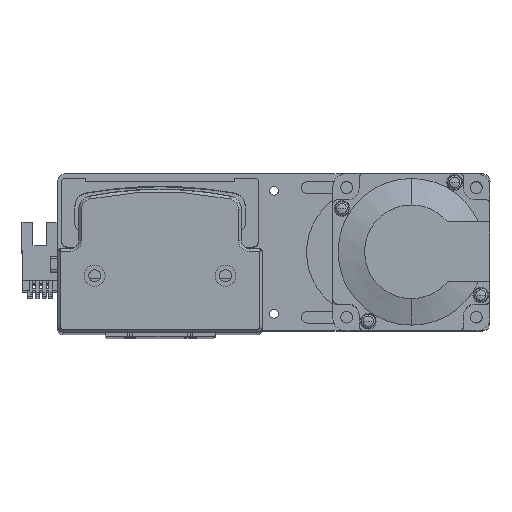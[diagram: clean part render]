
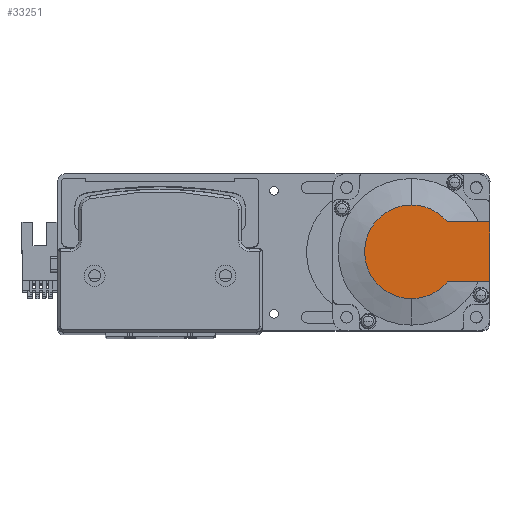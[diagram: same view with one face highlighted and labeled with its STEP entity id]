
A CAD part, top view. The second image highlights one B-rep face of the part: STEP entity #33251.
In plain terms, the highlighted planar face has unit normal (0, 0, 1) as drawn and (-1, 0, 0) by its records, which use the part's own axes.
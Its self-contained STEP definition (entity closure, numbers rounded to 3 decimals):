
#650 = DIRECTION ( 'NONE',  ( -1., 0., 0. ) ) ;
#1748 = CIRCLE ( 'NONE', #34875, 17.881 ) ;
#1859 = CARTESIAN_POINT ( 'NONE',  ( -118.5, 30., -11.45 ) ) ;
#2598 = CARTESIAN_POINT ( 'NONE',  ( -118.5, 0., 0. ) ) ;
#4062 = ORIENTED_EDGE ( 'NONE', *, *, #27092, .F. ) ;
#4374 = CARTESIAN_POINT ( 'NONE',  ( -118.5, 30., 25. ) ) ;
#4420 = VERTEX_POINT ( 'NONE', #45861 ) ;
#5519 = DIRECTION ( 'NONE',  ( -1., 0., 0. ) ) ;
#6344 = DIRECTION ( 'NONE',  ( 0., 0., -1. ) ) ;
#6529 = EDGE_CURVE ( 'NONE', #47822, #6682, #27954, .T. ) ;
#6682 = VERTEX_POINT ( 'NONE', #10396 ) ;
#9032 = PLANE ( 'NONE',  #27415 ) ;
#9594 = EDGE_LOOP ( 'NONE', ( #29234, #19136, #23899, #24264, #12250, #4062 ) ) ;
#10396 = CARTESIAN_POINT ( 'NONE',  ( -118.5, 13.735, -11.45 ) ) ;
#12250 = ORIENTED_EDGE ( 'NONE', *, *, #27284, .F. ) ;
#14131 = LINE ( 'NONE', #31557, #32849 ) ;
#15031 = CIRCLE ( 'NONE', #40846, 17.881 ) ;
#16313 = CARTESIAN_POINT ( 'NONE',  ( -118.5, 0., 17.881 ) ) ;
#16410 = EDGE_CURVE ( 'NONE', #45515, #21405, #15031, .T. ) ;
#19136 = ORIENTED_EDGE ( 'NONE', *, *, #46709, .T. ) ;
#19426 = VECTOR ( 'NONE', #41604, 1000. ) ;
#19740 = CARTESIAN_POINT ( 'NONE',  ( -118.5, 0., 0. ) ) ;
#21405 = VERTEX_POINT ( 'NONE', #28257 ) ;
#21780 = LINE ( 'NONE', #4374, #19426 ) ;
#23017 = CARTESIAN_POINT ( 'NONE',  ( -118.5, 0., 0. ) ) ;
#23502 = DIRECTION ( 'NONE',  ( 0., 0., -1. ) ) ;
#23899 = ORIENTED_EDGE ( 'NONE', *, *, #39291, .T. ) ;
#24264 = ORIENTED_EDGE ( 'NONE', *, *, #16410, .T. ) ;
#24345 = CARTESIAN_POINT ( 'NONE',  ( -118.5, -8.941, -11.45 ) ) ;
#26176 = AXIS2_PLACEMENT_3D ( 'NONE', #19740, #45949, #23502 ) ;
#26586 = CIRCLE ( 'NONE', #26176, 17.881 ) ;
#26770 = DIRECTION ( 'NONE',  ( 0., 0., -1. ) ) ;
#27092 = EDGE_CURVE ( 'NONE', #47822, #37708, #21780, .T. ) ;
#27284 = EDGE_CURVE ( 'NONE', #37708, #21405, #14131, .T. ) ;
#27415 = AXIS2_PLACEMENT_3D ( 'NONE', #27848, #5519, #31590 ) ;
#27548 = CARTESIAN_POINT ( 'NONE',  ( -118.5, 30., 11.45 ) ) ;
#27848 = CARTESIAN_POINT ( 'NONE',  ( -118.5, -8.941, 0. ) ) ;
#27954 = LINE ( 'NONE', #24345, #45572 ) ;
#27967 = DIRECTION ( 'NONE',  ( 0., -1., 0. ) ) ;
#28257 = CARTESIAN_POINT ( 'NONE',  ( -118.5, 13.735, 11.45 ) ) ;
#28671 = DIRECTION ( 'NONE',  ( -1., 0., 0. ) ) ;
#29234 = ORIENTED_EDGE ( 'NONE', *, *, #6529, .T. ) ;
#31557 = CARTESIAN_POINT ( 'NONE',  ( -118.5, 0., 11.45 ) ) ;
#31590 = DIRECTION ( 'NONE',  ( 0., 0., 1. ) ) ;
#32849 = VECTOR ( 'NONE', #27967, 1000. ) ;
#33251 = ADVANCED_FACE ( 'NONE', ( #46148 ), #9032, .T. ) ;
#34875 = AXIS2_PLACEMENT_3D ( 'NONE', #23017, #650, #26770 ) ;
#35453 = DIRECTION ( 'NONE',  ( 0., -1., 0. ) ) ;
#37708 = VERTEX_POINT ( 'NONE', #27548 ) ;
#39291 = EDGE_CURVE ( 'NONE', #4420, #45515, #1748, .T. ) ;
#40846 = AXIS2_PLACEMENT_3D ( 'NONE', #2598, #28671, #6344 ) ;
#41604 = DIRECTION ( 'NONE',  ( 0., 0., 1. ) ) ;
#45515 = VERTEX_POINT ( 'NONE', #16313 ) ;
#45572 = VECTOR ( 'NONE', #35453, 1000. ) ;
#45861 = CARTESIAN_POINT ( 'NONE',  ( -118.5, 0., -17.881 ) ) ;
#45949 = DIRECTION ( 'NONE',  ( -1., 0., 0. ) ) ;
#46148 = FACE_OUTER_BOUND ( 'NONE', #9594, .T. ) ;
#46709 = EDGE_CURVE ( 'NONE', #6682, #4420, #26586, .T. ) ;
#47822 = VERTEX_POINT ( 'NONE', #1859 ) ;
